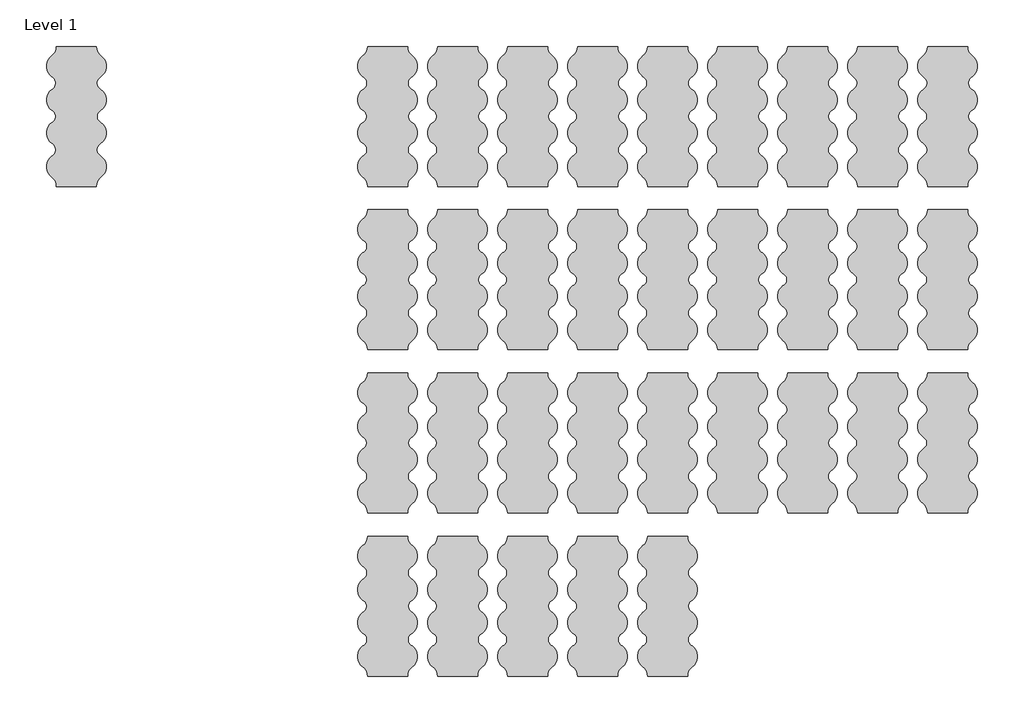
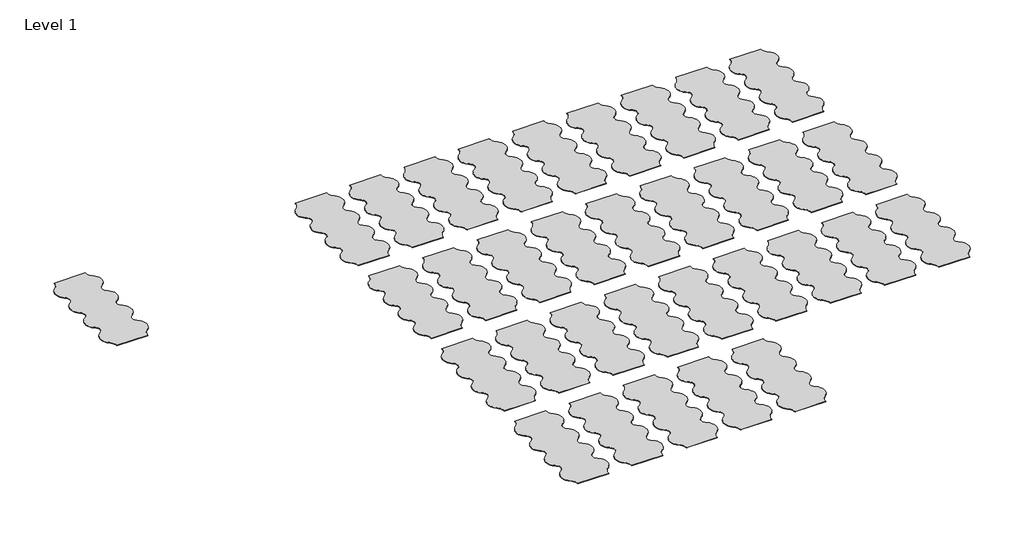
# One storey: 33 proxies.
"""IFC4 building model written with IfcOpenShell, lengths in millimetres."""

from ifc_helpers import new_model, si_unit, origin, place, context, project, spatial, transform, mapped, element, save
from components import proxy_101_frost_12_mm_e32e4f53

model = new_model("IFC4")

# Units and contexts
model_context = context("Model", 3, world=origin())
ifc_project = project(units=[si_unit("LENGTHUNIT", "METRE", prefix="MILLI")], contexts=[model_context])

# Site, building, storey
site = spatial("IfcSite", under=ifc_project)
building = spatial("IfcBuilding", under=site)
storey = spatial("IfcBuildingStorey", under=building, Name="Level 1", Elevation=0.0)

# Proxies
placement = place(None, origin())
proxy_101_frost_12_mm_shape = proxy_101_frost_12_mm_e32e4f53(model_context)
element("IfcBuildingElementProxy", 1, Name="Wall-Panel-Kirei_USA-EchoScreen-Ellipse_Screen : 108 Sunshine - 12 mm", ObjectType="Wall-Panel-Kirei_USA-EchoScreen-Ellipse_Screen : 108 Sunshine - 12 mm", at=placement, inside=storey, context=model_context, shape_type="MappedRepresentation", body=[
    mapped(proxy_101_frost_12_mm_shape, transform((1981.2, -21640.8, 0.0), x_axis=(1.0, 0.0, 0.0), y_axis=(0.0, 1.0, 0.0), z_axis=(0.0, 0.0, 1.0))),
])
element("IfcBuildingElementProxy", 2, Name="Wall-Panel-Kirei_USA-EchoScreen-Ellipse_Screen : 167 Cinnamon - 12 mm", ObjectType="Wall-Panel-Kirei_USA-EchoScreen-Ellipse_Screen : 167 Cinnamon - 12 mm", at=placement, inside=storey, context=model_context, shape_type="MappedRepresentation", body=[
    mapped(proxy_101_frost_12_mm_shape, transform((4724.4, -21640.8, 0.0), x_axis=(1.0, 0.0, 0.0), y_axis=(0.0, 1.0, 0.0), z_axis=(0.0, 0.0, 1.0))),
])
element("IfcBuildingElementProxy", 3, Name="Wall-Panel-Kirei_USA-EchoScreen-Ellipse_Screen : 274 Orchid - 12 mm", ObjectType="Wall-Panel-Kirei_USA-EchoScreen-Ellipse_Screen : 274 Orchid - 12 mm", at=placement, inside=storey, context=model_context, shape_type="MappedRepresentation", body=[
    mapped(proxy_101_frost_12_mm_shape, transform((8839.2, -21640.8, 0.0), x_axis=(1.0, 0.0, 0.0), y_axis=(0.0, 1.0, 0.0), z_axis=(0.0, 0.0, 1.0))),
])
element("IfcBuildingElementProxy", 4, Name="Wall-Panel-Kirei_USA-EchoScreen-Ellipse_Screen : 295 Mandarin - 12 mm", ObjectType="Wall-Panel-Kirei_USA-EchoScreen-Ellipse_Screen : 295 Mandarin - 12 mm", at=placement, inside=storey, context=model_context, shape_type="MappedRepresentation", body=[
    mapped(proxy_101_frost_12_mm_shape, transform((11582.4, -21640.8, 0.0), x_axis=(1.0, 0.0, 0.0), y_axis=(0.0, 1.0, 0.0), z_axis=(0.0, 0.0, 1.0))),
])
element("IfcBuildingElementProxy", 5, Name="Wall-Panel-Kirei_USA-EchoScreen-Ellipse_Screen : 330 Ivy - 12 mm", ObjectType="Wall-Panel-Kirei_USA-EchoScreen-Ellipse_Screen : 330 Ivy - 12 mm", at=placement, inside=storey, context=model_context, shape_type="MappedRepresentation", body=[
    mapped(proxy_101_frost_12_mm_shape, transform((609.6, -24841.2, 0.0), x_axis=(1.0, 0.0, 0.0), y_axis=(0.0, 1.0, 0.0), z_axis=(0.0, 0.0, 1.0))),
])
element("IfcBuildingElementProxy", 6, Name="Wall-Panel-Kirei_USA-EchoScreen-Ellipse_Screen : 338 Jade - 12 mm", ObjectType="Wall-Panel-Kirei_USA-EchoScreen-Ellipse_Screen : 338 Jade - 12 mm", at=placement, inside=storey, context=model_context, shape_type="MappedRepresentation", body=[
    mapped(proxy_101_frost_12_mm_shape, transform((1981.2, -24841.2, 0.0), x_axis=(1.0, 0.0, 0.0), y_axis=(0.0, 1.0, 0.0), z_axis=(0.0, 0.0, 1.0))),
])
element("IfcBuildingElementProxy", 7, Name="Wall-Panel-Kirei_USA-EchoScreen-Ellipse_Screen : 349 Vineyard - 12 mm", ObjectType="Wall-Panel-Kirei_USA-EchoScreen-Ellipse_Screen : 349 Vineyard - 12 mm", at=placement, inside=storey, context=model_context, shape_type="MappedRepresentation", body=[
    mapped(proxy_101_frost_12_mm_shape, transform((3352.8, -24841.2, 0.0), x_axis=(1.0, 0.0, 0.0), y_axis=(0.0, 1.0, 0.0), z_axis=(0.0, 0.0, 1.0))),
])
element("IfcBuildingElementProxy", 8, Name="Wall-Panel-Kirei_USA-EchoScreen-Ellipse_Screen : 551 Duck Egg - 12 mm", ObjectType="Wall-Panel-Kirei_USA-EchoScreen-Ellipse_Screen : 551 Duck Egg - 12 mm", at=placement, inside=storey, context=model_context, shape_type="MappedRepresentation", body=[
    mapped(proxy_101_frost_12_mm_shape, transform((10210.8, -28041.6, 0.0), x_axis=(1.0, 0.0, 0.0), y_axis=(0.0, 1.0, 0.0), z_axis=(0.0, 0.0, 1.0))),
])
element("IfcBuildingElementProxy", 9, Name="Wall-Panel-Kirei_USA-EchoScreen-Ellipse_Screen : 579 Pistachio - 12 mm", ObjectType="Wall-Panel-Kirei_USA-EchoScreen-Ellipse_Screen : 579 Pistachio - 12 mm", at=placement, inside=storey, context=model_context, shape_type="MappedRepresentation", body=[
    mapped(proxy_101_frost_12_mm_shape, transform((609.6, -31242.0, 0.0), x_axis=(1.0, 0.0, 0.0), y_axis=(0.0, 1.0, 0.0), z_axis=(0.0, 0.0, 1.0))),
])
element("IfcBuildingElementProxy", 10, Name="Wall-Panel-Kirei_USA-EchoScreen-Ellipse_Screen : 633 Pacific - 12 mm", ObjectType="Wall-Panel-Kirei_USA-EchoScreen-Ellipse_Screen : 633 Pacific - 12 mm", at=placement, inside=storey, context=model_context, shape_type="MappedRepresentation", body=[
    mapped(proxy_101_frost_12_mm_shape, transform((3352.8, -31242.0, 0.0), x_axis=(1.0, 0.0, 0.0), y_axis=(0.0, 1.0, 0.0), z_axis=(0.0, 0.0, 1.0))),
])
element("IfcBuildingElementProxy", 11, Name="Wall-Panel-Kirei_USA-EchoScreen-Ellipse_Screen : 660 Coronet - 12 mm", ObjectType="Wall-Panel-Kirei_USA-EchoScreen-Ellipse_Screen : 660 Coronet - 12 mm", at=placement, inside=storey, context=model_context, shape_type="MappedRepresentation", body=[
    mapped(proxy_101_frost_12_mm_shape, transform((4724.4, -31242.0, 0.0), x_axis=(1.0, 0.0, 0.0), y_axis=(0.0, 1.0, 0.0), z_axis=(0.0, 0.0, 1.0))),
])
element("IfcBuildingElementProxy", 12, Name="Wall-Panel-Kirei_USA-EchoScreen-Ellipse_Screen : 101 Frost - 12 mm", ObjectType="Wall-Panel-Kirei_USA-EchoScreen-Ellipse_Screen : 101 Frost - 12 mm", at=placement, inside=storey, context=model_context, shape_type="MappedRepresentation", body=[
    mapped(proxy_101_frost_12_mm_shape, transform((609.6, -21640.8, 0.0), x_axis=(1.0, 0.0, 0.0), y_axis=(0.0, 1.0, 0.0), z_axis=(0.0, 0.0, 1.0))),
])
element("IfcBuildingElementProxy", 13, Name="Wall-Panel-Kirei_USA-EchoScreen-Ellipse_Screen : 101 Frost - 12 mm", ObjectType="Wall-Panel-Kirei_USA-EchoScreen-Ellipse_Screen : 101 Frost - 12 mm", at=placement, inside=storey, context=model_context, shape_type="MappedRepresentation", body=[
    mapped(proxy_101_frost_12_mm_shape, transform((-5486.4, -21640.8, 0.0), x_axis=(1.0, 0.0, 0.0), y_axis=(0.0, 1.0, 0.0), z_axis=(0.0, 0.0, 1.0))),
])
element("IfcBuildingElementProxy", 14, Name="Wall-Panel-Kirei_USA-EchoScreen-Ellipse_Screen : 124 Ochre - 12 mm", ObjectType="Wall-Panel-Kirei_USA-EchoScreen-Ellipse_Screen : 124 Ochre - 12 mm", at=placement, inside=storey, context=model_context, shape_type="MappedRepresentation", body=[
    mapped(proxy_101_frost_12_mm_shape, transform((3352.8, -21640.8, 0.0), x_axis=(1.0, 0.0, 0.0), y_axis=(0.0, 1.0, 0.0), z_axis=(0.0, 0.0, 1.0))),
])
element("IfcBuildingElementProxy", 15, Name="Wall-Panel-Kirei_USA-EchoScreen-Ellipse_Screen : 193 Rouge - 12 mm", ObjectType="Wall-Panel-Kirei_USA-EchoScreen-Ellipse_Screen : 193 Rouge - 12 mm", at=placement, inside=storey, context=model_context, shape_type="MappedRepresentation", body=[
    mapped(proxy_101_frost_12_mm_shape, transform((6096.0, -21640.8, 0.0), x_axis=(1.0, 0.0, 0.0), y_axis=(0.0, 1.0, 0.0), z_axis=(0.0, 0.0, 1.0))),
])
element("IfcBuildingElementProxy", 16, Name="Wall-Panel-Kirei_USA-EchoScreen-Ellipse_Screen : 269 Wine - 12 mm", ObjectType="Wall-Panel-Kirei_USA-EchoScreen-Ellipse_Screen : 269 Wine - 12 mm", at=placement, inside=storey, context=model_context, shape_type="MappedRepresentation", body=[
    mapped(proxy_101_frost_12_mm_shape, transform((7467.6, -21640.8, 0.0), x_axis=(1.0, 0.0, 0.0), y_axis=(0.0, 1.0, 0.0), z_axis=(0.0, 0.0, 1.0))),
])
element("IfcBuildingElementProxy", 17, Name="Wall-Panel-Kirei_USA-EchoScreen-Ellipse_Screen : 276 Lavender - 12 mm", ObjectType="Wall-Panel-Kirei_USA-EchoScreen-Ellipse_Screen : 276 Lavender - 12 mm", at=placement, inside=storey, context=model_context, shape_type="MappedRepresentation", body=[
    mapped(proxy_101_frost_12_mm_shape, transform((10210.8, -21640.8, 0.0), x_axis=(1.0, 0.0, 0.0), y_axis=(0.0, 1.0, 0.0), z_axis=(0.0, 0.0, 1.0))),
])
element("IfcBuildingElementProxy", 18, Name="Wall-Panel-Kirei_USA-EchoScreen-Ellipse_Screen : 365 Navy - 12 mm", ObjectType="Wall-Panel-Kirei_USA-EchoScreen-Ellipse_Screen : 365 Navy - 12 mm", at=placement, inside=storey, context=model_context, shape_type="MappedRepresentation", body=[
    mapped(proxy_101_frost_12_mm_shape, transform((4724.4, -24841.2, 0.0), x_axis=(1.0, 0.0, 0.0), y_axis=(0.0, 1.0, 0.0), z_axis=(0.0, 0.0, 1.0))),
])
element("IfcBuildingElementProxy", 19, Name="Wall-Panel-Kirei_USA-EchoScreen-Ellipse_Screen : 381 Lime Splice - 12 mm", ObjectType="Wall-Panel-Kirei_USA-EchoScreen-Ellipse_Screen : 381 Lime Splice - 12 mm", at=placement, inside=storey, context=model_context, shape_type="MappedRepresentation", body=[
    mapped(proxy_101_frost_12_mm_shape, transform((6096.0, -24841.2, 0.0), x_axis=(1.0, 0.0, 0.0), y_axis=(0.0, 1.0, 0.0), z_axis=(0.0, 0.0, 1.0))),
])
element("IfcBuildingElementProxy", 20, Name="Wall-Panel-Kirei_USA-EchoScreen-Ellipse_Screen : 384 Olive - 12 mm", ObjectType="Wall-Panel-Kirei_USA-EchoScreen-Ellipse_Screen : 384 Olive - 12 mm", at=placement, inside=storey, context=model_context, shape_type="MappedRepresentation", body=[
    mapped(proxy_101_frost_12_mm_shape, transform((7467.6, -24841.2, 0.0), x_axis=(1.0, 0.0, 0.0), y_axis=(0.0, 1.0, 0.0), z_axis=(0.0, 0.0, 1.0))),
])
element("IfcBuildingElementProxy", 21, Name="Wall-Panel-Kirei_USA-EchoScreen-Ellipse_Screen : 402 Pebble - 12 mm", ObjectType="Wall-Panel-Kirei_USA-EchoScreen-Ellipse_Screen : 402 Pebble - 12 mm", at=placement, inside=storey, context=model_context, shape_type="MappedRepresentation", body=[
    mapped(proxy_101_frost_12_mm_shape, transform((8839.2, -24841.2, 0.0), x_axis=(1.0, 0.0, 0.0), y_axis=(0.0, 1.0, 0.0), z_axis=(0.0, 0.0, 1.0))),
])
element("IfcBuildingElementProxy", 22, Name="Wall-Panel-Kirei_USA-EchoScreen-Ellipse_Screen : 442 Gray - 12 mm", ObjectType="Wall-Panel-Kirei_USA-EchoScreen-Ellipse_Screen : 442 Gray - 12 mm", at=placement, inside=storey, context=model_context, shape_type="MappedRepresentation", body=[
    mapped(proxy_101_frost_12_mm_shape, transform((10210.8, -24841.2, 0.0), x_axis=(1.0, 0.0, 0.0), y_axis=(0.0, 1.0, 0.0), z_axis=(0.0, 0.0, 1.0))),
])
element("IfcBuildingElementProxy", 23, Name="Wall-Panel-Kirei_USA-EchoScreen-Ellipse_Screen : 444 Smoke - 12 mm", ObjectType="Wall-Panel-Kirei_USA-EchoScreen-Ellipse_Screen : 444 Smoke - 12 mm", at=placement, inside=storey, context=model_context, shape_type="MappedRepresentation", body=[
    mapped(proxy_101_frost_12_mm_shape, transform((11582.4, -24841.2, 0.0), x_axis=(1.0, 0.0, 0.0), y_axis=(0.0, 1.0, 0.0), z_axis=(0.0, 0.0, 1.0))),
])
element("IfcBuildingElementProxy", 24, Name="Wall-Panel-Kirei_USA-EchoScreen-Ellipse_Screen : 447 Slate - 12 mm", ObjectType="Wall-Panel-Kirei_USA-EchoScreen-Ellipse_Screen : 447 Slate - 12 mm", at=placement, inside=storey, context=model_context, shape_type="MappedRepresentation", body=[
    mapped(proxy_101_frost_12_mm_shape, transform((609.6, -28041.6, 0.0), x_axis=(1.0, 0.0, 0.0), y_axis=(0.0, 1.0, 0.0), z_axis=(0.0, 0.0, 1.0))),
])
element("IfcBuildingElementProxy", 25, Name="Wall-Panel-Kirei_USA-EchoScreen-Ellipse_Screen : 454 Mushroom - 12 mm", ObjectType="Wall-Panel-Kirei_USA-EchoScreen-Ellipse_Screen : 454 Mushroom - 12 mm", at=placement, inside=storey, context=model_context, shape_type="MappedRepresentation", body=[
    mapped(proxy_101_frost_12_mm_shape, transform((1981.2, -28041.6, 0.0), x_axis=(1.0, 0.0, 0.0), y_axis=(0.0, 1.0, 0.0), z_axis=(0.0, 0.0, 1.0))),
])
element("IfcBuildingElementProxy", 26, Name="Wall-Panel-Kirei_USA-EchoScreen-Ellipse_Screen : 468 Vanilla - 12 mm", ObjectType="Wall-Panel-Kirei_USA-EchoScreen-Ellipse_Screen : 468 Vanilla - 12 mm", at=placement, inside=storey, context=model_context, shape_type="MappedRepresentation", body=[
    mapped(proxy_101_frost_12_mm_shape, transform((3352.8, -28041.6, 0.0), x_axis=(1.0, 0.0, 0.0), y_axis=(0.0, 1.0, 0.0), z_axis=(0.0, 0.0, 1.0))),
])
element("IfcBuildingElementProxy", 27, Name="Wall-Panel-Kirei_USA-EchoScreen-Ellipse_Screen : 487 Blush - 12 mm", ObjectType="Wall-Panel-Kirei_USA-EchoScreen-Ellipse_Screen : 487 Blush - 12 mm", at=placement, inside=storey, context=model_context, shape_type="MappedRepresentation", body=[
    mapped(proxy_101_frost_12_mm_shape, transform((4724.4, -28041.6, 0.0), x_axis=(1.0, 0.0, 0.0), y_axis=(0.0, 1.0, 0.0), z_axis=(0.0, 0.0, 1.0))),
])
element("IfcBuildingElementProxy", 28, Name="Wall-Panel-Kirei_USA-EchoScreen-Ellipse_Screen : 500 White - 12 mm", ObjectType="Wall-Panel-Kirei_USA-EchoScreen-Ellipse_Screen : 500 White - 12 mm", at=placement, inside=storey, context=model_context, shape_type="MappedRepresentation", body=[
    mapped(proxy_101_frost_12_mm_shape, transform((6096.0, -28041.6, 0.0), x_axis=(1.0, 0.0, 0.0), y_axis=(0.0, 1.0, 0.0), z_axis=(0.0, 0.0, 1.0))),
])
element("IfcBuildingElementProxy", 29, Name="Wall-Panel-Kirei_USA-EchoScreen-Ellipse_Screen : 542 Black - 12 mm", ObjectType="Wall-Panel-Kirei_USA-EchoScreen-Ellipse_Screen : 542 Black - 12 mm", at=placement, inside=storey, context=model_context, shape_type="MappedRepresentation", body=[
    mapped(proxy_101_frost_12_mm_shape, transform((7467.6, -28041.6, 0.0), x_axis=(1.0, 0.0, 0.0), y_axis=(0.0, 1.0, 0.0), z_axis=(0.0, 0.0, 1.0))),
])
element("IfcBuildingElementProxy", 30, Name="Wall-Panel-Kirei_USA-EchoScreen-Ellipse_Screen : 550 Onyx - 12 mm", ObjectType="Wall-Panel-Kirei_USA-EchoScreen-Ellipse_Screen : 550 Onyx - 12 mm", at=placement, inside=storey, context=model_context, shape_type="MappedRepresentation", body=[
    mapped(proxy_101_frost_12_mm_shape, transform((8839.2, -28041.6, 0.0), x_axis=(1.0, 0.0, 0.0), y_axis=(0.0, 1.0, 0.0), z_axis=(0.0, 0.0, 1.0))),
])
element("IfcBuildingElementProxy", 31, Name="Wall-Panel-Kirei_USA-EchoScreen-Ellipse_Screen : 576 Magenta - 12 mm", ObjectType="Wall-Panel-Kirei_USA-EchoScreen-Ellipse_Screen : 576 Magenta - 12 mm", at=placement, inside=storey, context=model_context, shape_type="MappedRepresentation", body=[
    mapped(proxy_101_frost_12_mm_shape, transform((11582.4, -28041.6, 0.0), x_axis=(1.0, 0.0, 0.0), y_axis=(0.0, 1.0, 0.0), z_axis=(0.0, 0.0, 1.0))),
])
element("IfcBuildingElementProxy", 32, Name="Wall-Panel-Kirei_USA-EchoScreen-Ellipse_Screen : 580 Sage - 12 mm", ObjectType="Wall-Panel-Kirei_USA-EchoScreen-Ellipse_Screen : 580 Sage - 12 mm", at=placement, inside=storey, context=model_context, shape_type="MappedRepresentation", body=[
    mapped(proxy_101_frost_12_mm_shape, transform((1981.2, -31242.0, 0.0), x_axis=(1.0, 0.0, 0.0), y_axis=(0.0, 1.0, 0.0), z_axis=(0.0, 0.0, 1.0))),
])
element("IfcBuildingElementProxy", 33, Name="Wall-Panel-Kirei_USA-EchoScreen-Ellipse_Screen : 908 Cream - 12 mm", ObjectType="Wall-Panel-Kirei_USA-EchoScreen-Ellipse_Screen : 908 Cream - 12 mm", at=placement, inside=storey, context=model_context, shape_type="MappedRepresentation", body=[
    mapped(proxy_101_frost_12_mm_shape, transform((6096.0, -31242.0, 0.0), x_axis=(1.0, 0.0, 0.0), y_axis=(0.0, 1.0, 0.0), z_axis=(0.0, 0.0, 1.0))),
])

save(model, "model.ifc")
